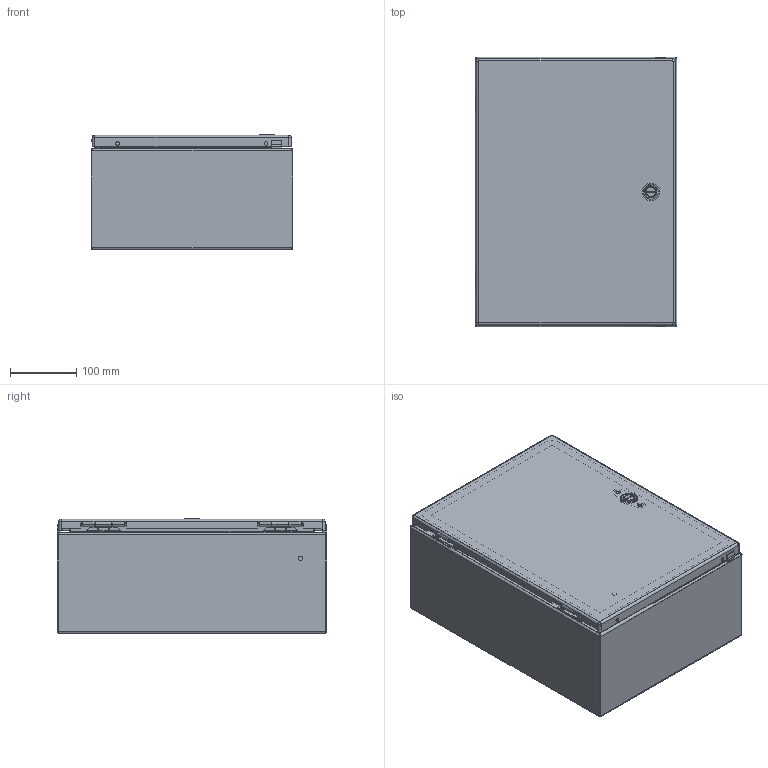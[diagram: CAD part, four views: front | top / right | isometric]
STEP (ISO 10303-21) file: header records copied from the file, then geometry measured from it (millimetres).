
FILE_DESCRIPTION (( 'STEP AP203' ), '1' );
FILE_NAME ('csd16126.STEP', '2012-05-21T18:56:52', ( 'User' ), ( 'Pentair Inc' ), 'SwSTEP 2.0', 'SolidWorks 2010', '' );
FILE_SCHEMA (( 'CONFIG_CONTROL_DESIGN' ));
Length unit declared in the file: inch
Products named in the file (27): csd16126; 87934504; 87934360_default; 23271001_After Weld; 87937917_assy; 87937957_weldment; 87937905; 99401225; 87931362_87931362; 64101001; 64201001; 87541994_Installed Height; 87541995; 64202001; 64210001; 64203001; 87927840_87927840; 87932903; 64138001; 89057560; 87543027; 89076399; 89076193; 89056623; 87929507; 87929767; 87929769_Installed on Pin
Assembly tree (36 placements, depth 4):
  csd16126
    87543027  x2
    87937917_assy
      89057560
      87937957_weldment
        87937905
        99401225
        87931362_87931362  x2
      64101001
        64210001
        87541995
        64203001
        64201001
        64202001
        87541994_Installed Height
        87927840_87927840
      87932903  x2
      64138001  x2
    87929507  x2
      87929767
      87929769_Installed on Pin
    89076399  x2
      89056623
      89076193
    87934504
      23271001_After Weld  x4
      99401225
      87934360_default
Bounding box: 304.8 x 407.13 x 173.1 mm (x, y, z)
Volume: 765176.5 mm3; surface area: 1134018 mm2
Topology: 33 solids, 33 shells, 1667 faces, 4085 edges, 2466 vertices
Faces by surface type: plane 646, cylinder 535, bspline 288, torus 102, cone 88, sphere 8
Entity records: 46159 total; most frequent: CARTESIAN_POINT 16300, ORIENTED_EDGE 5874, DIRECTION 5113, EDGE_CURVE 2937, AXIS2_PLACEMENT_3D 1831, VERTEX_POINT 1802, VECTOR 1451, LINE 1451
